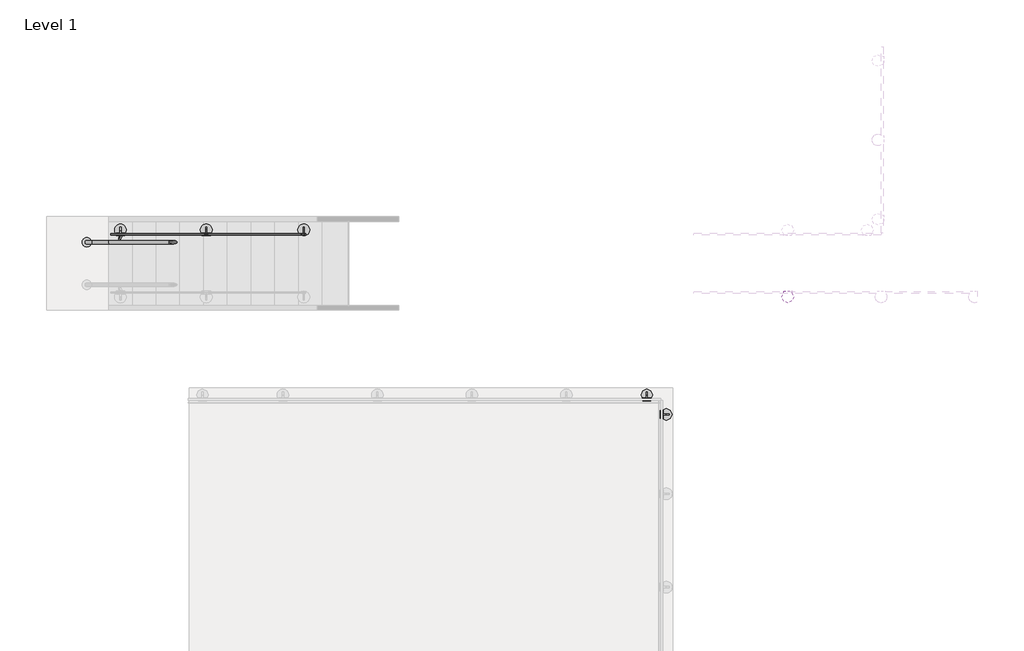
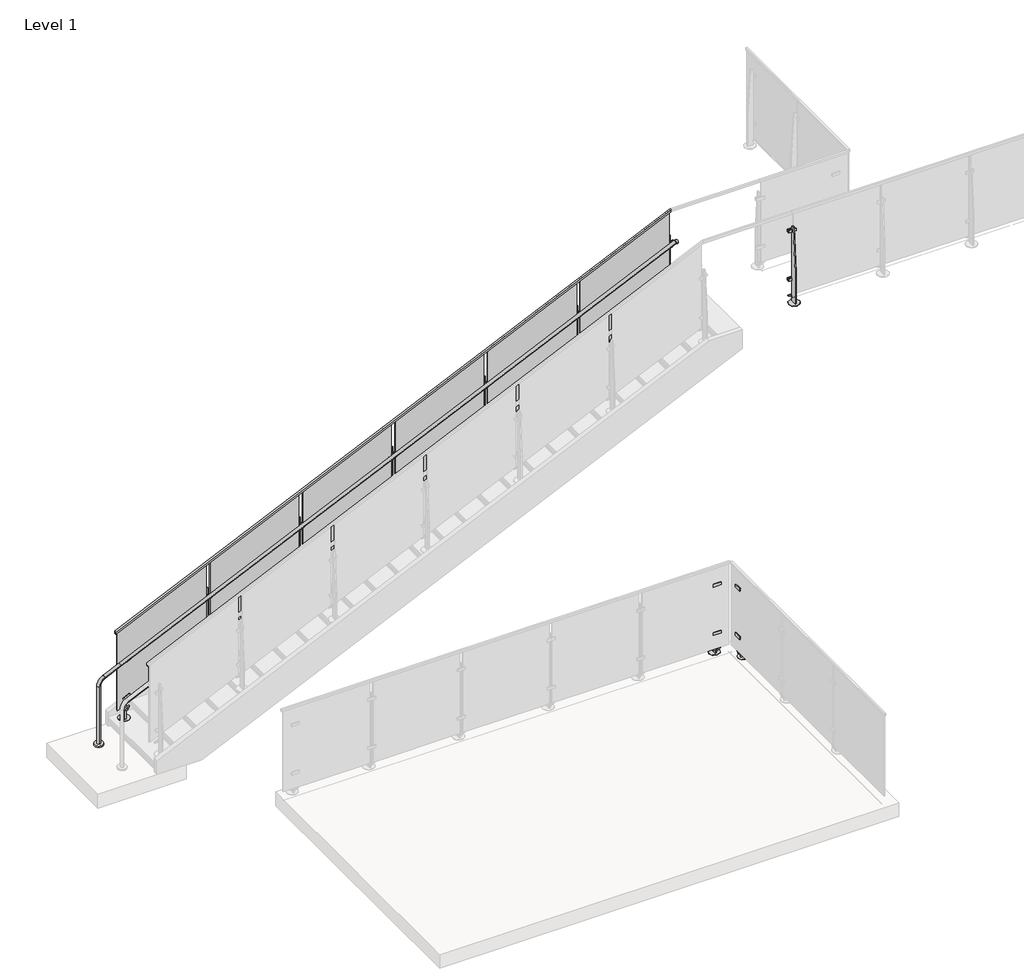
# One storey, part 3 of 37: 3 proxies, 1 railing.
"""IFC4 building model written with IfcOpenShell, lengths in millimetres."""

from ifc_helpers import new_model, si_unit, point, frame, frame_2d, origin, place, context, project, spatial, polyline, circle_curve, ellipse_curve, trimmed, segment, composite_curve, outline, extrude, faceted_brep, transform, mapped, element, save
from ifc_brep_helpers import plane_surface, cylinder_surface, revolved_surface, advanced_brep
from components import baluster_end_post_viva_solo_top_mount_e69dec62, baluster_end_post_viva_solo_top_mount_768039ba, baluster_end_post_viva_solo_top_mount_7846b30d

model = new_model("IFC4")

# Units and contexts
model_context = context("Model", 3, world=origin())
ifc_project = project(units=[si_unit("LENGTHUNIT", "METRE", prefix="MILLI")], contexts=[model_context])

# Site, building, storey
site = spatial("IfcSite", under=ifc_project)
building = spatial("IfcBuilding", under=site)
storey = spatial("IfcBuildingStorey", under=building, Name="Level 1", Elevation=0.0)

# Proxies
placement = place(None, origin())
baluster_end_post_viva_solo_top_mount_shape = baluster_end_post_viva_solo_top_mount_e69dec62(model_context)
element("IfcBuildingElementProxy", 1, Name="Baluster-End-Post-VIVA-SOLO-Top Mount : CORED INTO CONCRETE_TOP MOUNT FOLD_STRAIGHT", ObjectType="Baluster-End-Post-VIVA-SOLO-Top Mount : CORED INTO CONCRETE_TOP MOUNT FOLD_STRAIGHT", at=placement, inside=storey, context=model_context, shape_type="MappedRepresentation", body=[
    mapped(baluster_end_post_viva_solo_top_mount_shape, transform((-7824.211879, -6731.1465071, -0.508), x_axis=(0.0, 1.0, 0.0), y_axis=(-1.0, 0.0, 0.0), z_axis=(0.0, 0.0, 1.0))),
])
baluster_end_post_viva_solo_top_mount_2_shape = baluster_end_post_viva_solo_top_mount_768039ba(model_context)
element("IfcBuildingElementProxy", 2, Name="Baluster-End-Post-VIVA-SOLO-Top Mount : CORED INTO CONCRETE_TOP MOUNT FOLD_STRAIGHT", ObjectType="Baluster-End-Post-VIVA-SOLO-Top Mount : CORED INTO CONCRETE_TOP MOUNT FOLD_STRAIGHT", at=placement, inside=storey, context=model_context, shape_type="MappedRepresentation", body=[
    mapped(baluster_end_post_viva_solo_top_mount_2_shape, transform((-6420.2310482, -5522.6703686, 3047.492), x_axis=(1.0, 0.0, 0.0), y_axis=(0.0, 1.0, 0.0), z_axis=(0.0, 0.0, 1.0))),
])
baluster_end_post_viva_solo_top_mount_3_shape = baluster_end_post_viva_solo_top_mount_7846b30d(model_context)
element("IfcBuildingElementProxy", 3, Name="Baluster-End-Post-VIVA-SOLO-Top Mount : CORED INTO CONCRETE_TOP MOUNT FOLD_STRAIGHT", ObjectType="Baluster-End-Post-VIVA-SOLO-Top Mount : CORED INTO CONCRETE_TOP MOUNT FOLD_STRAIGHT", at=placement, inside=storey, context=model_context, shape_type="MappedRepresentation", body=[
    mapped(baluster_end_post_viva_solo_top_mount_3_shape, transform((-7799.129379, -6756.2290071, -0.508), x_axis=(-1.0, 0.0, 0.0), y_axis=(0.0, -1.0, 0.0), z_axis=(0.0, 0.0, 1.0))),
])

# Railing
element("IfcRailing", 4, ObjectType="VIVA-SOLO-Glass-Core Mount-Stair", at=placement, inside=storey, context=model_context, shape_type="SolidModel", body=[
    extrude(outline(composite_curve([segment(trimmed(circle_curve(frame_2d((-14041.513319, -5009.5903686)), 50.8), [point((-14041.513319, -4958.7903686))], [point((-14041.513319, -5060.3903686))], False, "CARTESIAN"), True, "CONTINUOUS"), segment(trimmed(circle_curve(frame_2d((-14041.513319, -5009.5903686)), 50.8), [point((-14041.513319, -5060.3903686))], [point((-14041.513319, -4958.7903686))], False, "CARTESIAN"), True, "CONTINUOUS")], self_intersect=False)), frame((0.0, 0.0, -1.27), z_axis=(0.0, 0.0, 1.0), x_axis=(1.0, 0.0, 0.0)), (0.0, 0.0, 1.0), 19.05),
    advanced_brep(
    [(-13794.8678976, -4990.5403686, 886.82742), (-13794.8678976, -5028.6403686, 886.82742), (-7435.9254905, -5028.6403686, 3778.351061), (-7435.9254905, -4990.5403686, 3778.351061), (-14041.513319, -5028.6403686, 17.78), (-14041.513319, -4990.5403686, 17.78), (-14041.513319, -5028.6403686, 709.2620511), (-14041.513319, -4990.5403686, 709.2620511), (-13981.9689001, -4990.5403686, 801.7492832), (-13981.9689001, -5028.6403686, 801.7492832), (-7414.4484971, -5028.6403686, 3778.351061), (-7414.4484971, -4990.5403686, 3778.351061)],
    [
        (0, 1, circle_curve(frame((-13794.8678976, -5009.5903686, 886.82742), z_axis=(0.9103074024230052, 0.0, 0.4139328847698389), x_axis=(0.0, 1.0, 0.0)), 19.05)),
        (1, 2),
        (2, 3, ellipse_curve(frame((-7435.9254905, -5009.5903686, 3778.351061), z_axis=(-0.9773196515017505, 0.0, -0.2117694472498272), x_axis=(0.21176944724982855, 0.0, -0.9773196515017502)), 19.4920873, 19.05)),
        (3, 0),
        (1, 0, circle_curve(frame((-13794.8678976, -5009.5903686, 886.82742), z_axis=(0.9103074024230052, 0.0, 0.4139328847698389), x_axis=(0.0, 1.0, 0.0)), 19.05)),
        (3, 2, ellipse_curve(frame((-7435.9254905, -5009.5903686, 3778.351061), z_axis=(-0.9773196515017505, 0.0, -0.2117694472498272), x_axis=(0.21176944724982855, 0.0, -0.9773196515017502)), 19.4920873, 19.05)),
        (4, 5, circle_curve(frame((-14041.513319, -5009.5903686, 17.78), z_axis=(0.0, 0.0, -1.0), x_axis=(0.0, 1.0, 0.0)), 19.05)),
        (5, 4, circle_curve(frame((-14041.513319, -5009.5903686, 17.78), z_axis=(0.0, 0.0, -1.0), x_axis=(0.0, 1.0, 0.0)), 19.05)),
        (4, 6),
        (6, 7, circle_curve(frame((-14041.513319, -5009.5903686, 709.2620511), z_axis=(0.0, 0.0, -1.0), x_axis=(0.0, 1.0, 0.0)), 19.05)),
        (7, 5),
        (7, 6, circle_curve(frame((-14041.513319, -5009.5903686, 709.2620511), z_axis=(0.0, 0.0, -1.0), x_axis=(0.0, 1.0, 0.0)), 19.05)),
        (8, 7, circle_curve(frame((-13939.913319, -4990.5403686, 709.2620511), z_axis=(0.0, -1.0, 0.0), x_axis=(-1.0, 0.0, 0.0)), 101.6)),
        (6, 9, circle_curve(frame((-13939.913319, -5028.6403686, 709.2620511), z_axis=(0.0, 1.0, 0.0), x_axis=(-1.0, 0.0, 0.0)), 101.6)),
        (9, 8, circle_curve(frame((-13981.9689001, -5009.5903686, 801.7492832), z_axis=(-0.9103074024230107, 0.0, -0.4139328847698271), x_axis=(0.0, 1.0, 0.0)), 19.05)),
        (8, 9, circle_curve(frame((-13981.9689001, -5009.5903686, 801.7492832), z_axis=(-0.9103074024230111, 0.0, -0.4139328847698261), x_axis=(0.0, 1.0, 0.0)), 19.05)),
        (9, 1),
        (0, 8),
        (10, 11, circle_curve(frame((-7414.4484971, -5009.5903686, 3778.351061), z_axis=(1.0, 0.0, 0.0), x_axis=(0.0, 1.0, 0.0)), 19.05)),
        (11, 10, circle_curve(frame((-7414.4484971, -5009.5903686, 3778.351061), z_axis=(1.0, 0.0, 0.0), x_axis=(0.0, 1.0, 0.0)), 19.05)),
        (2, 10),
        (11, 3),
    ],
    [
        cylinder_surface(frame((-13794.8678976, -5009.5903686, 886.82742), z_axis=(-0.9103074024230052, 0.0, -0.4139328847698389), x_axis=(0.0, 1.0, 0.0)), 19.05),
        plane_surface(frame((-14060.563319, -5047.6903686, 17.78), z_axis=(0.0, 0.0, -1.0), x_axis=(1.0, 0.0, 0.0))),
        cylinder_surface(frame((-14041.513319, -5009.5903686, 17.78), z_axis=(0.0, 0.0, -1.0), x_axis=(0.0, 1.0, 0.0)), 19.05),
        revolved_surface(trimmed(ellipse_curve(frame((-14041.513319, -5009.5903686, 709.2620511), z_axis=(0.0, 0.0, -1.0), x_axis=(0.0, 1.0, 0.0)), 19.05, 19.05), [point((-14041.513319, -5028.6403686, 709.2620511))], [point((-14041.513319, -4990.5403686, 709.2620511))], True, "CARTESIAN"), (-13939.913319, -5009.5903686, 709.2620511), (0.0, 1.0, 0.0)),
        revolved_surface(trimmed(ellipse_curve(frame((-14041.513319, -5009.5903686, 709.2620511), z_axis=(0.0, 0.0, -1.0), x_axis=(0.0, 1.0, 0.0)), 19.05, 19.05), [point((-14041.513319, -4990.5403686, 709.2620511))], [point((-14041.513319, -5028.6403686, 709.2620511))], True, "CARTESIAN"), (-13939.913319, -5009.5903686, 709.2620511), (0.0, 1.0, 0.0)),
        cylinder_surface(frame((-13981.9689001, -5009.5903686, 801.7492832), z_axis=(-0.9103074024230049, 0.0, -0.4139328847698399), x_axis=(0.0, 1.0, 0.0)), 19.05),
        plane_surface(frame((-7414.4484971, -5009.5903686, 3797.401061), z_axis=(1.0, 0.0, 0.0), x_axis=(0.0, 1.0, 0.0))),
        cylinder_surface(frame((-7440.053319, -5009.5903686, 3778.351061), z_axis=(-1.0, 0.0, 0.0), x_axis=(0.0, 1.0, 0.0)), 19.05),
    ],
    [
        (0, [[1, 2, 3, 4]]),
        (0, [[5, -4, 6, -2]]),
        (1, [[7, 8]]),
        (2, [[-7, 9, 10, 11]]),
        (2, [[-8, -11, 12, -9]]),
        (3, [[13, -10, 14, 15]]),
        (4, [[-14, -12, -13, 16]]),
        (5, [[-15, 17, -1, 18]]),
        (5, [[-16, -18, -5, -17]]),
        (6, [[19, 20]]),
        (7, [[-3, 21, -20, 22]]),
        (7, [[-6, -22, -19, -21]]),
    ],
),
    faceted_brep([(-13802.753319, -4934.9778686, 1234.3687761), (-13802.753319, -4912.7528686, 1234.3687761), (-13802.753319, -4912.7528686, 1206.4661138), (-13802.753319, -4917.5153686, 1206.4661138), (-13802.753319, -4917.5153686, 1229.1370269), (-13802.753319, -4930.2153686, 1229.1370269), (-13802.753319, -4930.2153686, 1206.4661138), (-13802.753319, -4934.9778686, 1206.4661138), (-7440.053319, -4934.9778686, 4127.601061), (-7440.053319, -4934.9778686, 4099.6983988), (-7440.053319, -4930.2153686, 4099.6983988), (-7440.053319, -4930.2153686, 4122.3693118), (-7440.053319, -4917.5153686, 4122.3693118), (-7440.053319, -4917.5153686, 4099.6983988), (-7440.053319, -4912.7528686, 4099.6983988), (-7440.053319, -4912.7528686, 4127.601061)], [[[0, 1, 2, 3, 4, 5, 6, 7]], [[8, 9, 10, 11, 12, 13, 14, 15]], [[1, 0, 8, 15]], [[2, 1, 15, 14]], [[3, 2, 14, 13]], [[4, 3, 13, 12]], [[5, 4, 12, 11]], [[6, 5, 11, 10]], [[7, 6, 10, 9]], [[0, 7, 9, 8]]]),
    extrude(outline(polyline([(4112.1609602, -7461.8952724), (3650.167781, -8477.8952724), (2617.7111027, -8477.8952724), (3079.7042819, -7461.8952724), (4112.1609602, -7461.8952724)])), frame((0.0, -4930.2153686, 0.0), z_axis=(0.0, 1.0, 0.0), x_axis=(0.0, 0.0, 1.0)), (0.0, 0.0, 1.0), 12.7),
    extrude(outline(polyline([(-12.7, 0.0), (0.0, 0.0), (0.0, -3.175), (58.7375, -34.925), (61.9125, -34.925), (61.9125, -65.0875), (50.8, -65.0875), (-12.7, -3.175), (-12.7, 0.0)])), frame((-8528.1319584, -5001.6528686, 3260.3180961), z_axis=(0.8987940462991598, 0.0, 0.4383711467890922), x_axis=(0.0, 1.0, 0.0)), (0.0, 0.0, 1.0), 12.7),
    extrude(outline(polyline([(-4907.9903686, 3315.1956802), (-4882.5903686, 3315.1956802), (-4844.4903686, 2781.7956802), (-4844.4903686, 2461.8461538), (-4907.9903686, 2461.8461538), (-4907.9903686, 3315.1956802)])), frame((-8506.853319, 0.0, 0.0), z_axis=(1.0, 0.0, 0.0), x_axis=(0.0, 1.0, 0.0)), (0.0, 0.0, 1.0), 12.7),
    extrude(outline(polyline([(0.0, 88.9), (9.525, 88.9), (9.525, 0.0), (0.0, 0.0), (0.0, 88.9)])), frame((-8453.5927817, -4939.7403686, 3223.3736751), z_axis=(-0.4383711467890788, 0.0, 0.8987940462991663), x_axis=(0.0, 1.0, 0.0)), (0.0, 0.0, 1.0), 31.75),
    extrude(outline(polyline([(0.0, 88.9), (9.525, 88.9), (9.525, 0.0), (0.0, 0.0), (0.0, 88.9)])), frame((-8453.5927817, -4917.5153686, 3223.3736751), z_axis=(-0.4383711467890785, 0.0, 0.8987940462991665), x_axis=(0.0, 1.0, 0.0)), (0.0, 0.0, 1.0), 31.75),
    extrude(outline(polyline([(0.0, 88.9), (9.525, 88.9), (9.525, 0.0), (0.0, 0.0), (0.0, 88.9)])), frame((-8453.5927817, -4917.5153686, 2757.8490612), z_axis=(-0.43837114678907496, 0.0, 0.8987940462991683), x_axis=(0.0, 1.0, 0.0)), (0.0, 0.0, 1.0), 31.75),
    extrude(outline(polyline([(0.0, 88.9), (9.525, 88.9), (9.525, 0.0), (0.0, 0.0), (0.0, 88.9)])), frame((-8453.5927817, -4939.7403686, 2757.8490612), z_axis=(-0.4383711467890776, 0.0, 0.8987940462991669), x_axis=(0.0, 1.0, 0.0)), (0.0, 0.0, 1.0), 31.75),
    extrude(outline(polyline([(2624.3603761, -8464.7413963), (2630.0677183, -8467.5250531), (2591.0965233, -8547.4278438), (2585.3891811, -8544.644187), (2585.1780228, -8495.0860419), (2624.3603761, -8464.7413963)])), frame((0.0, -4930.2153686, 0.0), z_axis=(0.0, 1.0, 0.0), x_axis=(0.0, 0.0, 1.0)), (0.0, 0.0, 1.0), 12.7),
    extrude(outline(composite_curve([segment(trimmed(circle_curve(frame_2d((24.5007933, -6.6985915)), 25.4), [point((0.0, 0.0))], [point((6.4034747, 11.1240644))], False, "CARTESIAN"), True, "CONTINUOUS"), segment(polyline([(6.4034747, 11.1240644), (8.7901893, 9.7460941)]), True, "CONTINUOUS"), segment(trimmed(circle_curve(frame_2d((26.8875079, -8.0765617)), 25.4), [point((8.7901893, 9.7460941))], [point((2.8057896, 0.0))], True, "CARTESIAN"), True, "CONTINUOUS"), segment(polyline([(2.8057896, 0.0), (0.0, 0.0)]), True, "CONTINUOUS")], self_intersect=False)), frame((-8544.0530759, -5001.5536223, 3249.5048973), z_axis=(0.8987940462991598, 0.0, 0.4383711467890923), x_axis=(-0.37964054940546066, -0.5000000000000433, 0.7783784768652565)), (0.0, 0.0, 1.0), 50.8),
    extrude(outline(composite_curve([segment(trimmed(circle_curve(frame_2d((-8500.503319, -4876.2403686)), 63.5), [point((-8500.503319, -4812.7403686))], [point((-8500.503319, -4939.7403686))], False, "CARTESIAN"), True, "CONTINUOUS"), segment(trimmed(circle_curve(frame_2d((-8500.503319, -4876.2403686)), 63.5), [point((-8500.503319, -4939.7403686))], [point((-8500.503319, -4812.7403686))], False, "CARTESIAN"), True, "CONTINUOUS")], self_intersect=False)), frame((0.0, 0.0, 2461.8461538), z_axis=(0.0, 0.0, 1.0), x_axis=(1.0, 0.0, 0.0)), (0.0, 0.0, 1.0), 3.175),
    extrude(outline(composite_curve([segment(trimmed(circle_curve(frame_2d((2753.6921538, -8500.503319)), 6.35), [point((2753.6921538, -8494.153319))], [point((2753.6921538, -8506.853319))], False, "CARTESIAN"), True, "CONTINUOUS"), segment(trimmed(circle_curve(frame_2d((2753.6921538, -8500.503319)), 6.35), [point((2753.6921538, -8506.853319))], [point((2753.6921538, -8494.153319))], False, "CARTESIAN"), True, "CONTINUOUS")], self_intersect=False)), frame((0.0, -4930.2153686, 0.0), z_axis=(0.0, 1.0, 0.0), x_axis=(0.0, 0.0, 1.0)), (0.0, 0.0, 1.0), 12.7),
    extrude(outline(composite_curve([segment(trimmed(circle_curve(frame_2d((3218.1564331, -8500.503319)), 6.35), [point((3218.1564331, -8494.153319))], [point((3218.1564331, -8506.853319))], False, "CARTESIAN"), True, "CONTINUOUS"), segment(trimmed(circle_curve(frame_2d((3218.1564331, -8500.503319)), 6.35), [point((3218.1564331, -8506.853319))], [point((3218.1564331, -8494.153319))], False, "CARTESIAN"), True, "CONTINUOUS")], self_intersect=False)), frame((0.0, -4930.2153686, 0.0), z_axis=(0.0, 1.0, 0.0), x_axis=(0.0, 0.0, 1.0)), (0.0, 0.0, 1.0), 12.7),
    extrude(outline(composite_curve([segment(trimmed(circle_curve(frame_2d((2596.3730128, -8500.503319)), 11.1125), [point((2596.3730128, -8489.390819))], [point((2596.3730128, -8511.615819))], False, "CARTESIAN"), True, "CONTINUOUS"), segment(trimmed(circle_curve(frame_2d((2596.3730128, -8500.503319)), 11.1125), [point((2596.3730128, -8511.615819))], [point((2596.3730128, -8489.390819))], False, "CARTESIAN"), True, "CONTINUOUS")], self_intersect=False)), frame((0.0, -4933.3903686, 0.0), z_axis=(0.0, 1.0, 0.0), x_axis=(0.0, 0.0, 1.0)), (0.0, 0.0, 1.0), 25.4),
    extrude(outline(polyline([(3629.9555794, -8522.3452724), (3167.9624002, -9538.3452724), (2148.7880258, -9538.3452724), (2610.781205, -8522.3452724), (3629.9555794, -8522.3452724)])), frame((0.0, -4930.2153686, 0.0), z_axis=(0.0, 1.0, 0.0), x_axis=(0.0, 0.0, 1.0)), (0.0, 0.0, 1.0), 12.7),
    extrude(outline(polyline([(-12.7, 0.0), (0.0, 0.0), (0.0, -3.175), (58.7375, -34.925), (61.9125, -34.925), (61.9125, -65.0875), (50.8, -65.0875), (-12.7, -3.175), (-12.7, 0.0)])), frame((-9588.5819584, -5001.6528686, 2778.1127153), z_axis=(0.8987940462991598, 0.0, 0.4383711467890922), x_axis=(0.0, 1.0, 0.0)), (0.0, 0.0, 1.0), 12.7),
    extrude(outline(polyline([(-4907.9903686, 2832.9902994), (-4882.5903686, 2832.9902994), (-4844.4903686, 2299.5902994), (-4844.4903686, 1992.9230769), (-4907.9903686, 1992.9230769), (-4907.9903686, 2832.9902994)])), frame((-9567.303319, 0.0, 0.0), z_axis=(1.0, 0.0, 0.0), x_axis=(0.0, 1.0, 0.0)), (0.0, 0.0, 1.0), 12.7),
    extrude(outline(polyline([(0.0, 88.9), (9.525, 88.9), (9.525, 0.0), (0.0, 0.0), (0.0, 88.9)])), frame((-9514.0427817, -4939.7403686, 2741.1682943), z_axis=(-0.4383711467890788, 0.0, 0.8987940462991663), x_axis=(0.0, 1.0, 0.0)), (0.0, 0.0, 1.0), 31.75),
    extrude(outline(polyline([(0.0, 88.9), (9.525, 88.9), (9.525, 0.0), (0.0, 0.0), (0.0, 88.9)])), frame((-9514.0427817, -4917.5153686, 2741.1682943), z_axis=(-0.4383711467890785, 0.0, 0.8987940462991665), x_axis=(0.0, 1.0, 0.0)), (0.0, 0.0, 1.0), 31.75),
    extrude(outline(polyline([(0.0, 88.9), (9.525, 88.9), (9.525, 0.0), (0.0, 0.0), (0.0, 88.9)])), frame((-9514.0427817, -4917.5153686, 2288.9259842), z_axis=(-0.43837114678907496, 0.0, 0.8987940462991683), x_axis=(0.0, 1.0, 0.0)), (0.0, 0.0, 1.0), 31.75),
    extrude(outline(polyline([(0.0, 88.9), (9.525, 88.9), (9.525, 0.0), (0.0, 0.0), (0.0, 88.9)])), frame((-9514.0427817, -4939.7403686, 2288.9259842), z_axis=(-0.4383711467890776, 0.0, 0.8987940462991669), x_axis=(0.0, 1.0, 0.0)), (0.0, 0.0, 1.0), 31.75),
    extrude(outline(polyline([(2155.4372992, -9525.1913963), (2161.1446414, -9527.9750531), (2122.1734464, -9607.8778438), (2116.4661042, -9605.094187), (2116.2549459, -9555.5360419), (2155.4372992, -9525.1913963)])), frame((0.0, -4930.2153686, 0.0), z_axis=(0.0, 1.0, 0.0), x_axis=(0.0, 0.0, 1.0)), (0.0, 0.0, 1.0), 12.7),
    extrude(outline(composite_curve([segment(trimmed(circle_curve(frame_2d((24.5007933, -6.6985914)), 25.4), [point((0.0, 0.0))], [point((6.4034747, 11.1240644))], False, "CARTESIAN"), True, "CONTINUOUS"), segment(polyline([(6.4034747, 11.1240644), (8.7901892, 9.7460941)]), True, "CONTINUOUS"), segment(trimmed(circle_curve(frame_2d((26.8875079, -8.0765617)), 25.4), [point((8.7901892, 9.7460941))], [point((2.8057896, 0.0))], True, "CARTESIAN"), True, "CONTINUOUS"), segment(polyline([(2.8057896, 0.0), (0.0, 0.0)]), True, "CONTINUOUS")], self_intersect=False)), frame((-9604.5030759, -5001.5536223, 2767.2995165), z_axis=(0.8987940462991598, 0.0, 0.4383711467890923), x_axis=(-0.37964054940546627, -0.5000000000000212, 0.7783784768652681)), (0.0, 0.0, 1.0), 50.8),
    extrude(outline(composite_curve([segment(trimmed(circle_curve(frame_2d((-9560.953319, -4876.2403686)), 63.5), [point((-9560.953319, -4812.7403686))], [point((-9560.953319, -4939.7403686))], False, "CARTESIAN"), True, "CONTINUOUS"), segment(trimmed(circle_curve(frame_2d((-9560.953319, -4876.2403686)), 63.5), [point((-9560.953319, -4939.7403686))], [point((-9560.953319, -4812.7403686))], False, "CARTESIAN"), True, "CONTINUOUS")], self_intersect=False)), frame((0.0, 0.0, 1992.9230769), z_axis=(0.0, 0.0, 1.0), x_axis=(1.0, 0.0, 0.0)), (0.0, 0.0, 1.0), 3.175),
    extrude(outline(composite_curve([segment(trimmed(circle_curve(frame_2d((2284.7690769, -9560.953319)), 6.35), [point((2284.7690769, -9554.603319))], [point((2284.7690769, -9567.303319))], False, "CARTESIAN"), True, "CONTINUOUS"), segment(trimmed(circle_curve(frame_2d((2284.7690769, -9560.953319)), 6.35), [point((2284.7690769, -9567.303319))], [point((2284.7690769, -9554.603319))], False, "CARTESIAN"), True, "CONTINUOUS")], self_intersect=False)), frame((0.0, -4930.2153686, 0.0), z_axis=(0.0, 1.0, 0.0), x_axis=(0.0, 0.0, 1.0)), (0.0, 0.0, 1.0), 12.7),
    extrude(outline(composite_curve([segment(trimmed(circle_curve(frame_2d((2735.9510523, -9560.953319)), 6.35), [point((2735.9510523, -9554.603319))], [point((2735.9510523, -9567.303319))], False, "CARTESIAN"), True, "CONTINUOUS"), segment(trimmed(circle_curve(frame_2d((2735.9510523, -9560.953319)), 6.35), [point((2735.9510523, -9567.303319))], [point((2735.9510523, -9554.603319))], False, "CARTESIAN"), True, "CONTINUOUS")], self_intersect=False)), frame((0.0, -4930.2153686, 0.0), z_axis=(0.0, 1.0, 0.0), x_axis=(0.0, 0.0, 1.0)), (0.0, 0.0, 1.0), 12.7),
    extrude(outline(composite_curve([segment(trimmed(circle_curve(frame_2d((2127.4499358, -9560.953319)), 11.1125), [point((2127.4499358, -9549.840819))], [point((2127.4499358, -9572.065819))], False, "CARTESIAN"), True, "CONTINUOUS"), segment(trimmed(circle_curve(frame_2d((2127.4499358, -9560.953319)), 11.1125), [point((2127.4499358, -9572.065819))], [point((2127.4499358, -9549.840819))], False, "CARTESIAN"), True, "CONTINUOUS")], self_intersect=False)), frame((0.0, -4933.3903686, 0.0), z_axis=(0.0, 1.0, 0.0), x_axis=(0.0, 0.0, 1.0)), (0.0, 0.0, 1.0), 25.4),
    extrude(outline(polyline([(3147.7501986, -9582.7952724), (2685.7570193, -10598.7952724), (1679.8649488, -10598.7952724), (2141.8581281, -9582.7952724), (3147.7501986, -9582.7952724)])), frame((0.0, -4930.2153686, 0.0), z_axis=(0.0, 1.0, 0.0), x_axis=(0.0, 0.0, 1.0)), (0.0, 0.0, 1.0), 12.7),
    extrude(outline(polyline([(-12.7, 0.0), (0.0, 0.0), (0.0, -3.175), (58.7375, -34.925), (61.9125, -34.925), (61.9125, -65.0875), (50.8, -65.0875), (-12.7, -3.175), (-12.7, 0.0)])), frame((-10649.0319584, -5001.6528686, 2295.9073345), z_axis=(0.8987940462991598, 0.0, 0.4383711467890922), x_axis=(0.0, 1.0, 0.0)), (0.0, 0.0, 1.0), 12.7),
    extrude(outline(polyline([(-4907.9903686, 2350.7849185), (-4882.5903686, 2350.7849185), (-4844.4903686, 1817.3849185), (-4844.4903686, 1524.0), (-4907.9903686, 1524.0), (-4907.9903686, 2350.7849185)])), frame((-10627.753319, 0.0, 0.0), z_axis=(1.0, 0.0, 0.0), x_axis=(0.0, 1.0, 0.0)), (0.0, 0.0, 1.0), 12.7),
    extrude(outline(polyline([(0.0, 88.9), (9.525, 88.9), (9.525, 0.0), (0.0, 0.0), (0.0, 88.9)])), frame((-10574.4927817, -4939.7403686, 2258.9629135), z_axis=(-0.4383711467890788, 0.0, 0.8987940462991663), x_axis=(0.0, 1.0, 0.0)), (0.0, 0.0, 1.0), 31.75),
    extrude(outline(polyline([(0.0, 88.9), (9.525, 88.9), (9.525, 0.0), (0.0, 0.0), (0.0, 88.9)])), frame((-10574.4927817, -4917.5153686, 2258.9629135), z_axis=(-0.4383711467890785, 0.0, 0.8987940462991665), x_axis=(0.0, 1.0, 0.0)), (0.0, 0.0, 1.0), 31.75),
    extrude(outline(polyline([(0.0, 88.9), (9.525, 88.9), (9.525, 0.0), (0.0, 0.0), (0.0, 88.9)])), frame((-10574.4927817, -4917.5153686, 1820.0029073), z_axis=(-0.43837114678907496, 0.0, 0.8987940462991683), x_axis=(0.0, 1.0, 0.0)), (0.0, 0.0, 1.0), 31.75),
    extrude(outline(polyline([(0.0, 88.9), (9.525, 88.9), (9.525, 0.0), (0.0, 0.0), (0.0, 88.9)])), frame((-10574.4927817, -4939.7403686, 1820.0029073), z_axis=(-0.4383711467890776, 0.0, 0.8987940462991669), x_axis=(0.0, 1.0, 0.0)), (0.0, 0.0, 1.0), 31.75),
    extrude(outline(polyline([(1686.5142223, -10585.6413963), (1692.2215644, -10588.4250531), (1653.2503695, -10668.3278438), (1647.5430273, -10665.544187), (1647.331869, -10615.9860419), (1686.5142223, -10585.6413963)])), frame((0.0, -4930.2153686, 0.0), z_axis=(0.0, 1.0, 0.0), x_axis=(0.0, 0.0, 1.0)), (0.0, 0.0, 1.0), 12.7),
    extrude(outline(composite_curve([segment(trimmed(circle_curve(frame_2d((24.5007933, -6.6985914)), 25.4), [point((0.0, 0.0))], [point((6.4034747, 11.1240644))], False, "CARTESIAN"), True, "CONTINUOUS"), segment(polyline([(6.4034747, 11.1240644), (8.7901892, 9.7460941)]), True, "CONTINUOUS"), segment(trimmed(circle_curve(frame_2d((26.8875079, -8.0765617)), 25.4), [point((8.7901892, 9.7460941))], [point((2.8057896, 0.0))], True, "CARTESIAN"), True, "CONTINUOUS"), segment(polyline([(2.8057896, 0.0), (0.0, 0.0)]), True, "CONTINUOUS")], self_intersect=False)), frame((-10664.9530759, -5001.5536223, 2285.0941357), z_axis=(0.8987940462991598, 0.0, 0.4383711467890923), x_axis=(-0.37964054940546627, -0.5000000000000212, 0.7783784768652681)), (0.0, 0.0, 1.0), 50.8),
    extrude(outline(composite_curve([segment(trimmed(circle_curve(frame_2d((-10621.403319, -4876.2403686)), 63.5), [point((-10621.403319, -4812.7403686))], [point((-10621.403319, -4939.7403686))], False, "CARTESIAN"), True, "CONTINUOUS"), segment(trimmed(circle_curve(frame_2d((-10621.403319, -4876.2403686)), 63.5), [point((-10621.403319, -4939.7403686))], [point((-10621.403319, -4812.7403686))], False, "CARTESIAN"), True, "CONTINUOUS")], self_intersect=False)), frame((0.0, 0.0, 1524.0), z_axis=(0.0, 0.0, 1.0), x_axis=(1.0, 0.0, 0.0)), (0.0, 0.0, 1.0), 3.175),
    extrude(outline(composite_curve([segment(trimmed(circle_curve(frame_2d((1815.846, -10621.403319)), 6.35), [point((1815.846, -10615.053319))], [point((1815.846, -10627.753319))], False, "CARTESIAN"), True, "CONTINUOUS"), segment(trimmed(circle_curve(frame_2d((1815.846, -10621.403319)), 6.35), [point((1815.846, -10627.753319))], [point((1815.846, -10615.053319))], False, "CARTESIAN"), True, "CONTINUOUS")], self_intersect=False)), frame((0.0, -4930.2153686, 0.0), z_axis=(0.0, 1.0, 0.0), x_axis=(0.0, 0.0, 1.0)), (0.0, 0.0, 1.0), 12.7),
    extrude(outline(composite_curve([segment(trimmed(circle_curve(frame_2d((2253.7456715, -10621.403319)), 6.35), [point((2253.7456715, -10615.053319))], [point((2253.7456715, -10627.753319))], False, "CARTESIAN"), True, "CONTINUOUS"), segment(trimmed(circle_curve(frame_2d((2253.7456715, -10621.403319)), 6.35), [point((2253.7456715, -10627.753319))], [point((2253.7456715, -10615.053319))], False, "CARTESIAN"), True, "CONTINUOUS")], self_intersect=False)), frame((0.0, -4930.2153686, 0.0), z_axis=(0.0, 1.0, 0.0), x_axis=(0.0, 0.0, 1.0)), (0.0, 0.0, 1.0), 12.7),
    extrude(outline(composite_curve([segment(trimmed(circle_curve(frame_2d((1658.5268589, -10621.403319)), 11.1125), [point((1658.5268589, -10610.290819))], [point((1658.5268589, -10632.515819))], False, "CARTESIAN"), True, "CONTINUOUS"), segment(trimmed(circle_curve(frame_2d((1658.5268589, -10621.403319)), 11.1125), [point((1658.5268589, -10632.515819))], [point((1658.5268589, -10610.290819))], False, "CARTESIAN"), True, "CONTINUOUS")], self_intersect=False)), frame((0.0, -4933.3903686, 0.0), z_axis=(0.0, 1.0, 0.0), x_axis=(0.0, 0.0, 1.0)), (0.0, 0.0, 1.0), 25.4),
    extrude(outline(polyline([(2665.5448177, -10643.2452724), (2203.5516385, -11659.2452724), (1210.9418719, -11659.2452724), (1672.9350512, -10643.2452724), (2665.5448177, -10643.2452724)])), frame((0.0, -4930.2153686, 0.0), z_axis=(0.0, 1.0, 0.0), x_axis=(0.0, 0.0, 1.0)), (0.0, 0.0, 1.0), 12.7),
    extrude(outline(polyline([(-12.7, 0.0), (0.0, 0.0), (0.0, -3.175), (58.7375, -34.9249999), (61.9125, -34.9249999), (61.9125, -65.0875), (50.8, -65.0875), (-12.7, -3.175), (-12.7, 0.0)])), frame((-11709.4819584, -5001.6528686, 1813.7019536), z_axis=(0.8987940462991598, 0.0, 0.4383711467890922), x_axis=(0.0, 1.0, 0.0)), (0.0, 0.0, 1.0), 12.7),
    extrude(outline(polyline([(-4907.9903686, 1868.5795377), (-4882.5903686, 1868.5795377), (-4844.4903686, 1335.1795377), (-4844.4903686, 1055.0769231), (-4907.9903686, 1055.0769231), (-4907.9903686, 1868.5795377)])), frame((-11688.203319, 0.0, 0.0), z_axis=(1.0, 0.0, 0.0), x_axis=(0.0, 1.0, 0.0)), (0.0, 0.0, 1.0), 12.7),
    extrude(outline(polyline([(0.0, 88.9), (9.525, 88.9), (9.525, 0.0), (0.0, 0.0), (0.0, 88.9)])), frame((-11634.9427817, -4939.7403686, 1776.7575326), z_axis=(-0.4383711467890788, 0.0, 0.8987940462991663), x_axis=(0.0, 1.0, 0.0)), (0.0, 0.0, 1.0), 31.75),
    extrude(outline(polyline([(0.0, 88.9), (9.525, 88.9), (9.525, 0.0), (0.0, 0.0), (0.0, 88.9)])), frame((-11634.9427817, -4917.5153686, 1776.7575326), z_axis=(-0.4383711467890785, 0.0, 0.8987940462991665), x_axis=(0.0, 1.0, 0.0)), (0.0, 0.0, 1.0), 31.75),
    extrude(outline(polyline([(0.0, 88.9), (9.525, 88.9), (9.525, 0.0), (0.0, 0.0), (0.0, 88.9)])), frame((-11634.9427817, -4917.5153686, 1351.0798304), z_axis=(-0.43837114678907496, 0.0, 0.8987940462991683), x_axis=(0.0, 1.0, 0.0)), (0.0, 0.0, 1.0), 31.75),
    extrude(outline(polyline([(0.0, 88.9), (9.525, 88.9), (9.525, 0.0), (0.0, 0.0), (0.0, 88.9)])), frame((-11634.9427817, -4939.7403686, 1351.0798304), z_axis=(-0.4383711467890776, 0.0, 0.8987940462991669), x_axis=(0.0, 1.0, 0.0)), (0.0, 0.0, 1.0), 31.75),
    extrude(outline(polyline([(1217.5911453, -11646.0913963), (1223.2984875, -11648.8750531), (1184.3272926, -11728.7778438), (1178.6199504, -11725.994187), (1178.4087921, -11676.4360419), (1217.5911453, -11646.0913963)])), frame((0.0, -4930.2153686, 0.0), z_axis=(0.0, 1.0, 0.0), x_axis=(0.0, 0.0, 1.0)), (0.0, 0.0, 1.0), 12.7),
    extrude(outline(composite_curve([segment(trimmed(circle_curve(frame_2d((24.5007933, -6.6985914)), 25.4), [point((0.0, 0.0))], [point((6.4034746, 11.1240644))], False, "CARTESIAN"), True, "CONTINUOUS"), segment(polyline([(6.4034746, 11.1240644), (8.7901892, 9.7460941)]), True, "CONTINUOUS"), segment(trimmed(circle_curve(frame_2d((26.8875078, -8.0765617)), 25.4), [point((8.7901892, 9.7460941))], [point((2.8057896, 0.0))], True, "CARTESIAN"), True, "CONTINUOUS"), segment(polyline([(2.8057896, 0.0), (0.0, 0.0)]), True, "CONTINUOUS")], self_intersect=False)), frame((-11725.4030759, -5001.5536223, 1802.8887549), z_axis=(0.8987940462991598, 0.0, 0.4383711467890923), x_axis=(-0.37964054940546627, -0.5000000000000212, 0.7783784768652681)), (0.0, 0.0, 1.0), 50.8),
    extrude(outline(composite_curve([segment(trimmed(circle_curve(frame_2d((-11681.853319, -4876.2403686)), 63.5), [point((-11681.853319, -4812.7403686))], [point((-11681.853319, -4939.7403686))], False, "CARTESIAN"), True, "CONTINUOUS"), segment(trimmed(circle_curve(frame_2d((-11681.853319, -4876.2403686)), 63.5), [point((-11681.853319, -4939.7403686))], [point((-11681.853319, -4812.7403686))], False, "CARTESIAN"), True, "CONTINUOUS")], self_intersect=False)), frame((0.0, 0.0, 1055.0769231), z_axis=(0.0, 0.0, 1.0), x_axis=(1.0, 0.0, 0.0)), (0.0, 0.0, 1.0), 3.175),
    extrude(outline(composite_curve([segment(trimmed(circle_curve(frame_2d((1346.9229231, -11681.853319)), 6.35), [point((1346.9229231, -11675.503319))], [point((1346.9229231, -11688.203319))], False, "CARTESIAN"), True, "CONTINUOUS"), segment(trimmed(circle_curve(frame_2d((1346.9229231, -11681.853319)), 6.35), [point((1346.9229231, -11688.203319))], [point((1346.9229231, -11675.503319))], False, "CARTESIAN"), True, "CONTINUOUS")], self_intersect=False)), frame((0.0, -4930.2153686, 0.0), z_axis=(0.0, 1.0, 0.0), x_axis=(0.0, 0.0, 1.0)), (0.0, 0.0, 1.0), 12.7),
    extrude(outline(composite_curve([segment(trimmed(circle_curve(frame_2d((1771.5402906, -11681.853319)), 6.35), [point((1771.5402906, -11675.503319))], [point((1771.5402906, -11688.203319))], False, "CARTESIAN"), True, "CONTINUOUS"), segment(trimmed(circle_curve(frame_2d((1771.5402906, -11681.853319)), 6.35), [point((1771.5402906, -11688.203319))], [point((1771.5402906, -11675.503319))], False, "CARTESIAN"), True, "CONTINUOUS")], self_intersect=False)), frame((0.0, -4930.2153686, 0.0), z_axis=(0.0, 1.0, 0.0), x_axis=(0.0, 0.0, 1.0)), (0.0, 0.0, 1.0), 12.7),
    extrude(outline(composite_curve([segment(trimmed(circle_curve(frame_2d((1189.603782, -11681.853319)), 11.1125), [point((1189.603782, -11670.740819))], [point((1189.603782, -11692.965819))], False, "CARTESIAN"), True, "CONTINUOUS"), segment(trimmed(circle_curve(frame_2d((1189.603782, -11681.853319)), 11.1125), [point((1189.603782, -11692.965819))], [point((1189.603782, -11670.740819))], False, "CARTESIAN"), True, "CONTINUOUS")], self_intersect=False)), frame((0.0, -4933.3903686, 0.0), z_axis=(0.0, 1.0, 0.0), x_axis=(0.0, 0.0, 1.0)), (0.0, 0.0, 1.0), 25.4),
    extrude(outline(polyline([(2183.3394369, -11703.6952724), (1721.3462577, -12719.6952724), (742.018795, -12719.6952724), (1204.0119742, -11703.6952724), (2183.3394369, -11703.6952724)])), frame((0.0, -4930.2153686, 0.0), z_axis=(0.0, 1.0, 0.0), x_axis=(0.0, 0.0, 1.0)), (0.0, 0.0, 1.0), 12.7),
    extrude(outline(polyline([(-12.7, 0.0), (0.0, 0.0), (0.0, -3.175), (58.7375, -34.925), (61.9125, -34.925), (61.9125, -65.0875), (50.8, -65.0875), (-12.7, -3.175), (-12.7, 0.0)])), frame((-12769.9319584, -5001.6528686, 1331.4965728), z_axis=(0.8987940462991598, 0.0, 0.4383711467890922), x_axis=(0.0, 1.0, 0.0)), (0.0, 0.0, 1.0), 12.7),
    extrude(outline(polyline([(-4907.9903686, 1386.3741569), (-4882.5903686, 1386.3741569), (-4844.4903686, 852.9741569), (-4844.4903686, 586.1538462), (-4907.9903686, 586.1538462), (-4907.9903686, 1386.3741569)])), frame((-12748.653319, 0.0, 0.0), z_axis=(1.0, 0.0, 0.0), x_axis=(0.0, 1.0, 0.0)), (0.0, 0.0, 1.0), 12.7),
    extrude(outline(polyline([(0.0, 88.9), (9.525, 88.9), (9.525, 0.0), (0.0, 0.0), (0.0, 88.9)])), frame((-12695.3927817, -4939.7403686, 1294.5521518), z_axis=(-0.4383711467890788, 0.0, 0.8987940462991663), x_axis=(0.0, 1.0, 0.0)), (0.0, 0.0, 1.0), 31.75),
    extrude(outline(polyline([(0.0, 88.9), (9.525, 88.9), (9.525, 0.0), (0.0, 0.0), (0.0, 88.9)])), frame((-12695.3927817, -4917.5153686, 1294.5521518), z_axis=(-0.4383711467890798, 0.0, 0.8987940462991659), x_axis=(0.0, 1.0, 0.0)), (0.0, 0.0, 1.0), 31.75),
    extrude(outline(polyline([(0.0, 88.9), (9.525, 88.9), (9.525, 0.0), (0.0, 0.0), (0.0, 88.9)])), frame((-12695.3927817, -4917.5153686, 882.1567535), z_axis=(-0.43837114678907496, 0.0, 0.8987940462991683), x_axis=(0.0, 1.0, 0.0)), (0.0, 0.0, 1.0), 31.75),
    extrude(outline(polyline([(0.0, 88.9), (9.525, 88.9), (9.525, 0.0), (0.0, 0.0), (0.0, 88.9)])), frame((-12695.3927817, -4939.7403686, 882.1567535), z_axis=(-0.4383711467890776, 0.0, 0.8987940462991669), x_axis=(0.0, 1.0, 0.0)), (0.0, 0.0, 1.0), 31.75),
    extrude(outline(polyline([(748.6680684, -12706.5413963), (754.3754106, -12709.3250531), (715.4042157, -12789.2278438), (709.6968735, -12786.444187), (709.4857151, -12736.8860419), (748.6680684, -12706.5413963)])), frame((0.0, -4930.2153686, 0.0), z_axis=(0.0, 1.0, 0.0), x_axis=(0.0, 0.0, 1.0)), (0.0, 0.0, 1.0), 12.7),
    extrude(outline(composite_curve([segment(trimmed(circle_curve(frame_2d((24.5007933, -6.6985915)), 25.4), [point((0.0, 0.0))], [point((6.4034747, 11.1240644))], False, "CARTESIAN"), True, "CONTINUOUS"), segment(polyline([(6.4034747, 11.1240644), (8.7901893, 9.7460941)]), True, "CONTINUOUS"), segment(trimmed(circle_curve(frame_2d((26.8875079, -8.0765617)), 25.4), [point((8.7901893, 9.7460941))], [point((2.8057896, 0.0))], True, "CARTESIAN"), True, "CONTINUOUS"), segment(polyline([(2.8057896, 0.0), (0.0, 0.0)]), True, "CONTINUOUS")], self_intersect=False)), frame((-12785.8530759, -5001.5536223, 1320.683374), z_axis=(0.8987940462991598, 0.0, 0.4383711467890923), x_axis=(-0.37964054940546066, -0.5000000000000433, 0.7783784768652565)), (0.0, 0.0, 1.0), 50.8),
    extrude(outline(composite_curve([segment(trimmed(circle_curve(frame_2d((-12742.303319, -4876.2403686)), 63.5), [point((-12742.303319, -4812.7403686))], [point((-12742.303319, -4939.7403686))], False, "CARTESIAN"), True, "CONTINUOUS"), segment(trimmed(circle_curve(frame_2d((-12742.303319, -4876.2403686)), 63.5), [point((-12742.303319, -4939.7403686))], [point((-12742.303319, -4812.7403686))], False, "CARTESIAN"), True, "CONTINUOUS")], self_intersect=False)), frame((0.0, 0.0, 586.1538462), z_axis=(0.0, 0.0, 1.0), x_axis=(1.0, 0.0, 0.0)), (0.0, 0.0, 1.0), 3.175),
    extrude(outline(composite_curve([segment(trimmed(circle_curve(frame_2d((877.9998462, -12742.303319)), 6.35), [point((877.9998462, -12735.953319))], [point((877.9998462, -12748.653319))], False, "CARTESIAN"), True, "CONTINUOUS"), segment(trimmed(circle_curve(frame_2d((877.9998462, -12742.303319)), 6.35), [point((877.9998462, -12748.653319))], [point((877.9998462, -12735.953319))], False, "CARTESIAN"), True, "CONTINUOUS")], self_intersect=False)), frame((0.0, -4930.2153686, 0.0), z_axis=(0.0, 1.0, 0.0), x_axis=(0.0, 0.0, 1.0)), (0.0, 0.0, 1.0), 12.7),
    extrude(outline(composite_curve([segment(trimmed(circle_curve(frame_2d((1289.3349098, -12742.303319)), 6.35), [point((1289.3349098, -12735.953319))], [point((1289.3349098, -12748.653319))], False, "CARTESIAN"), True, "CONTINUOUS"), segment(trimmed(circle_curve(frame_2d((1289.3349098, -12742.303319)), 6.35), [point((1289.3349098, -12748.653319))], [point((1289.3349098, -12735.953319))], False, "CARTESIAN"), True, "CONTINUOUS")], self_intersect=False)), frame((0.0, -4930.2153686, 0.0), z_axis=(0.0, 1.0, 0.0), x_axis=(0.0, 0.0, 1.0)), (0.0, 0.0, 1.0), 12.7),
    extrude(outline(composite_curve([segment(trimmed(circle_curve(frame_2d((720.6807051, -12742.303319)), 11.1125), [point((720.6807051, -12731.190819))], [point((720.6807051, -12753.415819))], False, "CARTESIAN"), True, "CONTINUOUS"), segment(trimmed(circle_curve(frame_2d((720.6807051, -12742.303319)), 11.1125), [point((720.6807051, -12753.415819))], [point((720.6807051, -12731.190819))], False, "CARTESIAN"), True, "CONTINUOUS")], self_intersect=False)), frame((0.0, -4933.3903686, 0.0), z_axis=(0.0, 1.0, 0.0), x_axis=(0.0, 0.0, 1.0)), (0.0, 0.0, 1.0), 25.4),
    extrude(outline(polyline([(1701.1340561, -12764.1452724), (1239.1408768, -13780.1452724), (273.0957181, -13780.1452724), (735.0888973, -12764.1452724), (1701.1340561, -12764.1452724)])), frame((0.0, -4930.2153686, 0.0), z_axis=(0.0, 1.0, 0.0), x_axis=(0.0, 0.0, 1.0)), (0.0, 0.0, 1.0), 12.7),
    extrude(outline(polyline([(-12.7, 0.0), (0.0, 0.0), (0.0, -3.175), (58.7375, -34.9249999), (61.9125, -34.9249999), (61.9125, -65.0875), (50.8, -65.0875), (-12.7, -3.175), (-12.7, 0.0)])), frame((-7467.6819584, -5001.6528686, 3742.5234769), z_axis=(0.8987940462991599, 0.0, 0.4383711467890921), x_axis=(0.0, 1.0, 0.0)), (0.0, 0.0, 1.0), 12.7),
    extrude(outline(polyline([(-4907.9903686, 3797.401061), (-4882.5903686, 3797.401061), (-4844.4903686, 3264.001061), (-4844.4903686, 2930.7692308), (-4907.9903686, 2930.7692308), (-4907.9903686, 3797.401061)])), frame((-7446.403319, 0.0, 0.0), z_axis=(1.0, 0.0, 0.0), x_axis=(0.0, 1.0, 0.0)), (0.0, 0.0, 1.0), 12.7),
    extrude(outline(polyline([(0.0, 88.9), (9.525, 88.9), (9.525, 0.0), (0.0, 0.0), (0.0, 88.9)])), frame((-7393.1427817, -4939.7403686, 3705.5790559), z_axis=(-0.4383711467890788, 0.0, 0.8987940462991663), x_axis=(0.0, 1.0, 0.0)), (0.0, 0.0, 1.0), 31.75),
    extrude(outline(polyline([(0.0, 88.9), (9.525, 88.9), (9.525, 0.0), (0.0, 0.0), (0.0, 88.9)])), frame((-7393.1427817, -4917.5153686, 3705.5790559), z_axis=(-0.4383711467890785, 0.0, 0.8987940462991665), x_axis=(0.0, 1.0, 0.0)), (0.0, 0.0, 1.0), 31.75),
    extrude(outline(polyline([(0.0, 88.9), (9.525, 88.9), (9.525, 0.0), (0.0, 0.0), (0.0, 88.9)])), frame((-7393.1427817, -4917.5153686, 3226.7721381), z_axis=(-0.4383711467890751, 0.0, 0.8987940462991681), x_axis=(0.0, 1.0, 0.0)), (0.0, 0.0, 1.0), 31.75),
    extrude(outline(polyline([(0.0, 88.9), (9.525, 88.9), (9.525, 0.0), (0.0, 0.0), (0.0, 88.9)])), frame((-7393.1427817, -4939.7403686, 3226.7721381), z_axis=(-0.4383711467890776, 0.0, 0.8987940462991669), x_axis=(0.0, 1.0, 0.0)), (0.0, 0.0, 1.0), 31.75),
    extrude(outline(polyline([(3093.283453, -7404.2913963), (3098.9907952, -7407.0750531), (3060.0196003, -7486.9778438), (3054.3122581, -7484.194187), (3054.1010997, -7434.6360419), (3093.283453, -7404.2913963)])), frame((0.0, -4930.2153686, 0.0), z_axis=(0.0, 1.0, 0.0), x_axis=(0.0, 0.0, 1.0)), (0.0, 0.0, 1.0), 12.7),
    extrude(outline(composite_curve([segment(trimmed(circle_curve(frame_2d((24.5007933, -6.6985914)), 25.4), [point((0.0, 0.0))], [point((6.4034746, 11.1240644))], False, "CARTESIAN"), True, "CONTINUOUS"), segment(polyline([(6.4034746, 11.1240644), (8.7901892, 9.7460941)]), True, "CONTINUOUS"), segment(trimmed(circle_curve(frame_2d((26.8875078, -8.0765617)), 25.4), [point((8.7901892, 9.7460941))], [point((2.8057896, 0.0))], True, "CARTESIAN"), True, "CONTINUOUS"), segment(polyline([(2.8057896, 0.0), (0.0, 0.0)]), True, "CONTINUOUS")], self_intersect=False)), frame((-7483.6030759, -5001.5536223, 3731.7102782), z_axis=(0.8987940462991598, 0.0, 0.4383711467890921), x_axis=(-0.37964054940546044, -0.5000000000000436, 0.7783784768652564)), (0.0, 0.0, 1.0), 50.8),
    extrude(outline(composite_curve([segment(trimmed(circle_curve(frame_2d((-7440.053319, -4876.2403686)), 63.5), [point((-7440.053319, -4812.7403686))], [point((-7440.053319, -4939.7403686))], False, "CARTESIAN"), True, "CONTINUOUS"), segment(trimmed(circle_curve(frame_2d((-7440.053319, -4876.2403686)), 63.5), [point((-7440.053319, -4939.7403686))], [point((-7440.053319, -4812.7403686))], False, "CARTESIAN"), True, "CONTINUOUS")], self_intersect=False)), frame((0.0, 0.0, 2930.7692308), z_axis=(0.0, 0.0, 1.0), x_axis=(1.0, 0.0, 0.0)), (0.0, 0.0, 1.0), 3.175),
    extrude(outline(composite_curve([segment(trimmed(circle_curve(frame_2d((3222.6152308, -7440.053319)), 6.35), [point((3222.6152308, -7433.703319))], [point((3222.6152308, -7446.403319))], False, "CARTESIAN"), True, "CONTINUOUS"), segment(trimmed(circle_curve(frame_2d((3222.6152308, -7440.053319)), 6.35), [point((3222.6152308, -7446.403319))], [point((3222.6152308, -7433.703319))], False, "CARTESIAN"), True, "CONTINUOUS")], self_intersect=False)), frame((0.0, -4930.2153686, 0.0), z_axis=(0.0, 1.0, 0.0), x_axis=(0.0, 0.0, 1.0)), (0.0, 0.0, 1.0), 12.7),
    extrude(outline(composite_curve([segment(trimmed(circle_curve(frame_2d((3700.3618139, -7440.053319)), 6.35), [point((3700.3618139, -7433.703319))], [point((3700.3618139, -7446.403319))], False, "CARTESIAN"), True, "CONTINUOUS"), segment(trimmed(circle_curve(frame_2d((3700.3618139, -7440.053319)), 6.35), [point((3700.3618139, -7446.403319))], [point((3700.3618139, -7433.703319))], False, "CARTESIAN"), True, "CONTINUOUS")], self_intersect=False)), frame((0.0, -4930.2153686, 0.0), z_axis=(0.0, 1.0, 0.0), x_axis=(0.0, 0.0, 1.0)), (0.0, 0.0, 1.0), 12.7),
    extrude(outline(composite_curve([segment(trimmed(circle_curve(frame_2d((3065.2960897, -7440.053319)), 11.1125), [point((3065.2960897, -7428.940819))], [point((3065.2960897, -7451.165819))], False, "CARTESIAN"), True, "CONTINUOUS"), segment(trimmed(circle_curve(frame_2d((3065.2960897, -7440.053319)), 11.1125), [point((3065.2960897, -7451.165819))], [point((3065.2960897, -7428.940819))], False, "CARTESIAN"), True, "CONTINUOUS")], self_intersect=False)), frame((0.0, -4933.3903686, 0.0), z_axis=(0.0, 1.0, 0.0), x_axis=(0.0, 0.0, 1.0)), (0.0, 0.0, 1.0), 25.4),
    extrude(outline(polyline([(-12.7, 0.0), (0.0, 0.0), (0.0, -3.175), (58.7375, -34.925), (61.9125, -34.925), (61.9125, -65.0875), (50.8, -65.0875), (-12.7, -3.175), (-12.7, 0.0)])), frame((-13703.3819584, -5001.6528686, 907.0403394), z_axis=(0.8987940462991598, 0.0, 0.4383711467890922), x_axis=(0.0, 1.0, 0.0)), (0.0, 0.0, 1.0), 12.7),
    extrude(outline(polyline([(-4907.9903686, 961.9179235), (-4882.5903686, 961.9179235), (-4844.4903686, 428.5179235), (-4844.4903686, 117.2307692), (-4907.9903686, 117.2307692), (-4907.9903686, 961.9179235)])), frame((-13682.103319, 0.0, 0.0), z_axis=(1.0, 0.0, 0.0), x_axis=(0.0, 1.0, 0.0)), (0.0, 0.0, 1.0), 12.7),
    extrude(outline(polyline([(0.0, 88.9), (9.525, 88.9), (9.525, 0.0), (0.0, 0.0), (0.0, 88.9)])), frame((-13628.8427817, -4939.7403686, 870.0959184), z_axis=(-0.4383711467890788, 0.0, 0.8987940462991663), x_axis=(0.0, 1.0, 0.0)), (0.0, 0.0, 1.0), 31.75),
    extrude(outline(polyline([(0.0, 88.9), (9.525, 88.9), (9.525, 0.0), (0.0, 0.0), (0.0, 88.9)])), frame((-13628.8427817, -4917.5153686, 870.0959184), z_axis=(-0.4383711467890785, 0.0, 0.8987940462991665), x_axis=(0.0, 1.0, 0.0)), (0.0, 0.0, 1.0), 31.75),
    extrude(outline(polyline([(0.0, 88.9), (9.525, 88.9), (9.525, 0.0), (0.0, 0.0), (0.0, 88.9)])), frame((-13628.8427817, -4917.5153686, 413.2336765), z_axis=(-0.43837114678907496, 0.0, 0.8987940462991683), x_axis=(0.0, 1.0, 0.0)), (0.0, 0.0, 1.0), 31.75),
    extrude(outline(polyline([(0.0, 88.9), (9.525, 88.9), (9.525, 0.0), (0.0, 0.0), (0.0, 88.9)])), frame((-13628.8427817, -4939.7403686, 413.2336765), z_axis=(-0.4383711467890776, 0.0, 0.8987940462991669), x_axis=(0.0, 1.0, 0.0)), (0.0, 0.0, 1.0), 31.75),
    extrude(outline(polyline([(279.7449915, -13639.9913963), (285.4523337, -13642.7750531), (246.4811387, -13722.6778438), (240.7737965, -13719.894187), (240.5626382, -13670.3360419), (279.7449915, -13639.9913963)])), frame((0.0, -4930.2153686, 0.0), z_axis=(0.0, 1.0, 0.0), x_axis=(0.0, 0.0, 1.0)), (0.0, 0.0, 1.0), 12.7),
    extrude(outline(composite_curve([segment(trimmed(circle_curve(frame_2d((24.5007933, -6.6985914)), 25.4), [point((0.0, 0.0))], [point((6.4034747, 11.1240644))], False, "CARTESIAN"), True, "CONTINUOUS"), segment(polyline([(6.4034747, 11.1240644), (8.7901892, 9.7460941)]), True, "CONTINUOUS"), segment(trimmed(circle_curve(frame_2d((26.8875079, -8.0765617)), 25.4), [point((8.7901892, 9.7460941))], [point((2.8057896, 0.0))], True, "CARTESIAN"), True, "CONTINUOUS"), segment(polyline([(2.8057896, 0.0), (0.0, 0.0)]), True, "CONTINUOUS")], self_intersect=False)), frame((-13719.3030759, -5001.5536223, 896.2271406), z_axis=(0.8987940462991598, 0.0, 0.4383711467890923), x_axis=(-0.37964054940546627, -0.5000000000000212, 0.7783784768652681)), (0.0, 0.0, 1.0), 50.8),
    extrude(outline(composite_curve([segment(trimmed(circle_curve(frame_2d((-13675.753319, -4876.2403686)), 63.5), [point((-13675.753319, -4812.7403686))], [point((-13675.753319, -4939.7403686))], False, "CARTESIAN"), True, "CONTINUOUS"), segment(trimmed(circle_curve(frame_2d((-13675.753319, -4876.2403686)), 63.5), [point((-13675.753319, -4939.7403686))], [point((-13675.753319, -4812.7403686))], False, "CARTESIAN"), True, "CONTINUOUS")], self_intersect=False)), frame((0.0, 0.0, 117.2307692), z_axis=(0.0, 0.0, 1.0), x_axis=(1.0, 0.0, 0.0)), (0.0, 0.0, 1.0), 3.175),
    extrude(outline(composite_curve([segment(trimmed(circle_curve(frame_2d((409.0767692, -13675.753319)), 6.35), [point((409.0767692, -13669.403319))], [point((409.0767692, -13682.103319))], False, "CARTESIAN"), True, "CONTINUOUS"), segment(trimmed(circle_curve(frame_2d((409.0767692, -13675.753319)), 6.35), [point((409.0767692, -13682.103319))], [point((409.0767692, -13669.403319))], False, "CARTESIAN"), True, "CONTINUOUS")], self_intersect=False)), frame((0.0, -4930.2153686, 0.0), z_axis=(0.0, 1.0, 0.0), x_axis=(0.0, 0.0, 1.0)), (0.0, 0.0, 1.0), 12.7),
    extrude(outline(composite_curve([segment(trimmed(circle_curve(frame_2d((864.8786764, -13675.753319)), 6.35), [point((864.8786764, -13669.403319))], [point((864.8786764, -13682.103319))], False, "CARTESIAN"), True, "CONTINUOUS"), segment(trimmed(circle_curve(frame_2d((864.8786764, -13675.753319)), 6.35), [point((864.8786764, -13682.103319))], [point((864.8786764, -13669.403319))], False, "CARTESIAN"), True, "CONTINUOUS")], self_intersect=False)), frame((0.0, -4930.2153686, 0.0), z_axis=(0.0, 1.0, 0.0), x_axis=(0.0, 0.0, 1.0)), (0.0, 0.0, 1.0), 12.7),
    extrude(outline(composite_curve([segment(trimmed(circle_curve(frame_2d((251.7576281, -13675.753319)), 11.1125), [point((251.7576281, -13664.640819))], [point((251.7576281, -13686.865819))], False, "CARTESIAN"), True, "CONTINUOUS"), segment(trimmed(circle_curve(frame_2d((251.7576281, -13675.753319)), 11.1125), [point((251.7576281, -13686.865819))], [point((251.7576281, -13664.640819))], False, "CARTESIAN"), True, "CONTINUOUS")], self_intersect=False)), frame((0.0, -4933.3903686, 0.0), z_axis=(0.0, 1.0, 0.0), x_axis=(0.0, 0.0, 1.0)), (0.0, 0.0, 1.0), 25.4),
])

save(model, "model.ifc")
